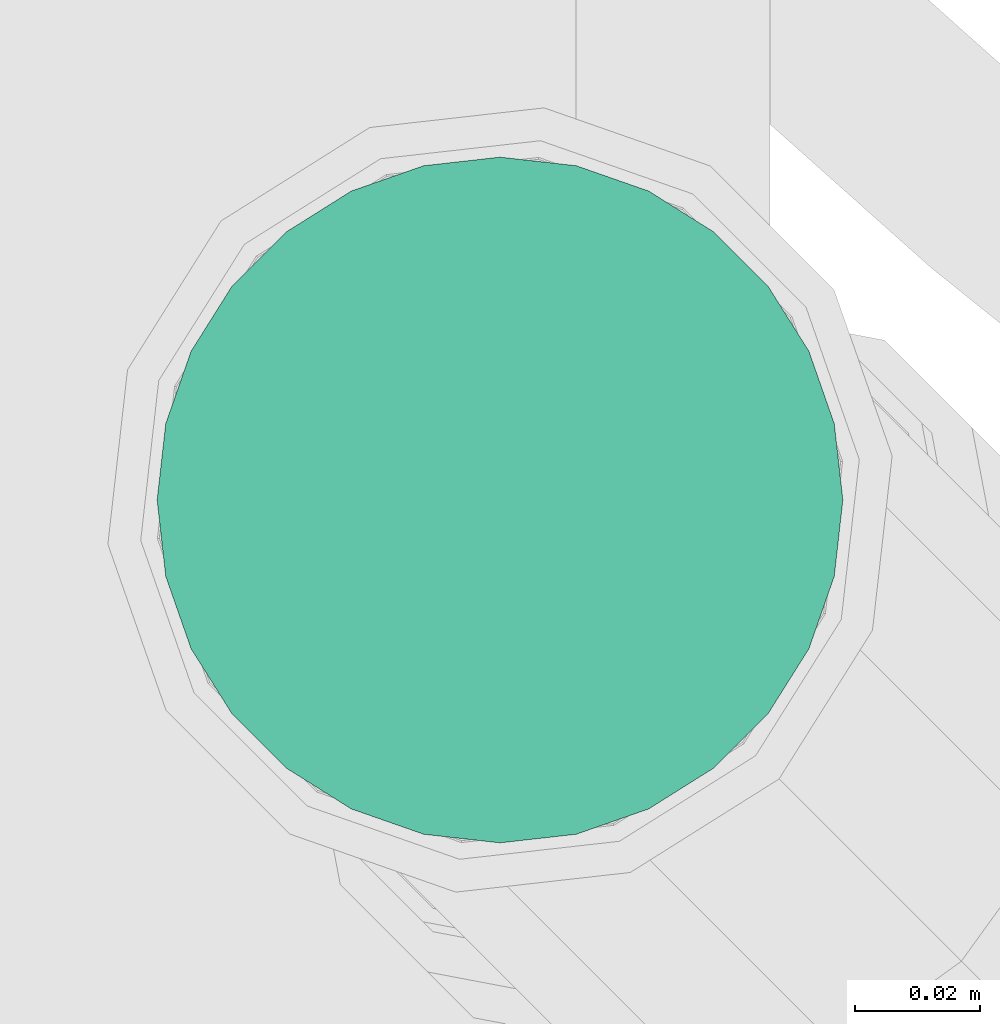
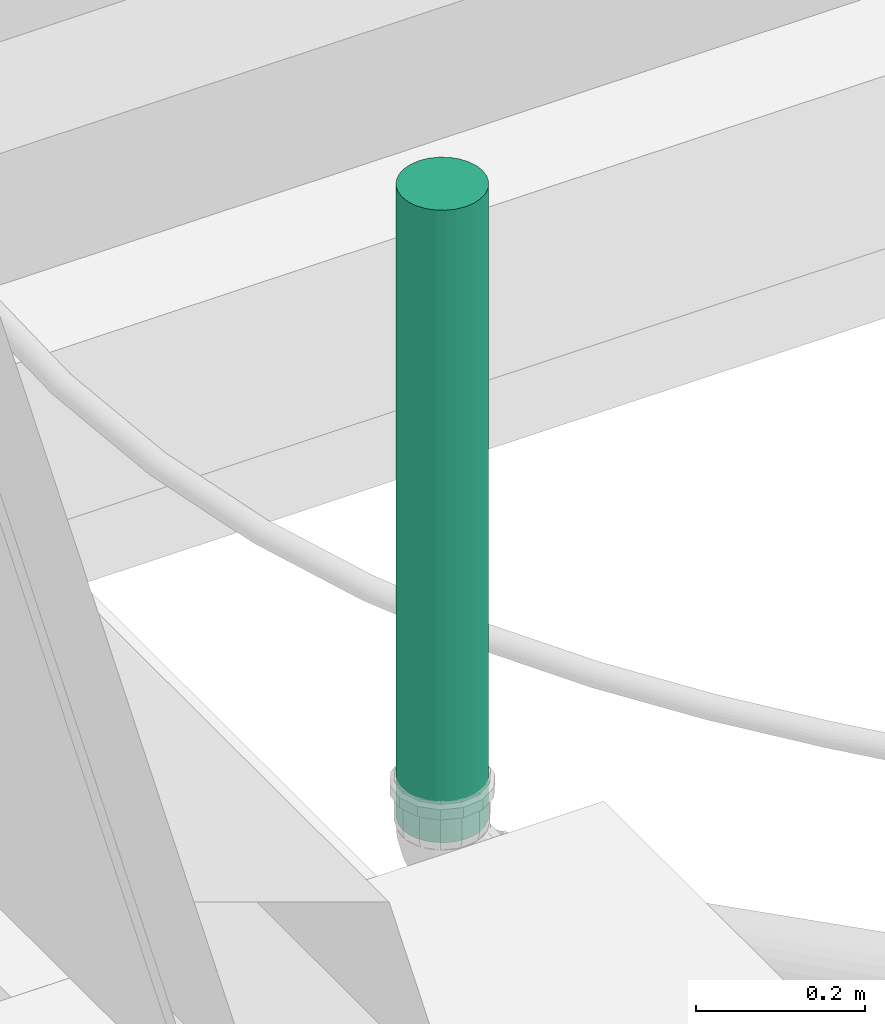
# One storey, part 13 of 18: 1 pipe segment.
"""IFC4 building model written with IfcOpenShell, lengths in centimetres."""

from ifc_helpers import new_model, entity, si_unit, converted_unit, derived_unit, direction, frame, origin, place, context, subcontext, project, spatial, arc, indexed_curve, outline, extrude, type_object, element, save


model = new_model("IFC4")

# Units and contexts
model_context = context("Model", 3, precision=0.001, world=origin(), true_north=direction((6.123233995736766e-17, 1.0)))
body_context = subcontext(model_context, "Body", "Model", "MODEL_VIEW")
ifc_project = project(units=[si_unit("LENGTHUNIT", "METRE", prefix="CENTI"), si_unit("AREAUNIT", "SQUARE_METRE"), converted_unit("PLANEANGLEUNIT", "DEGREE", entity("IfcPlaneAngleMeasure", 0.017453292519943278), si_unit("PLANEANGLEUNIT", "RADIAN"), dimensions=[0, 0, 0, 0, 0, 0, 0]), si_unit("VOLUMEUNIT", "CUBIC_METRE"), derived_unit("THERMALTRANSMITTANCEUNIT", [(si_unit("MASSUNIT", "GRAM", prefix="KILO"), 1), (si_unit("THERMODYNAMICTEMPERATUREUNIT", "KELVIN"), -1), (si_unit("TIMEUNIT", "SECOND"), -3)])], contexts=[model_context])

# Site, building, storey
site_placement = place(None, frame((-0.003347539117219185, 0.0, 0.0)))
site = spatial("IfcSite", under=ifc_project, at=site_placement, Name="Default", CompositionType="ELEMENT")
building_placement = place(site_placement, origin())
building = spatial("IfcBuilding", under=site, at=building_placement, CompositionType="ELEMENT")
storey_placement = place(building_placement, frame((0.0, 0.0, -30.0)))
storey = spatial("IfcBuildingStorey", under=building, at=storey_placement, Name="Fondation B.O.", CompositionType="ELEMENT", Elevation=-30.0)

# Pipe segment
pipe_segment_type = type_object("IfcPipeSegmentType", Name="Canalisation:Valsir PP3", PredefinedType="NOTDEFINED")
pipe_segment_placement = place(storey_placement, origin())
element("IfcPipeSegment", 1, at=pipe_segment_placement, inside=storey, type_object=pipe_segment_type, Name="Canalisation:Valsir PP3", ObjectType="Canalisation:Valsir PP3", PredefinedType="NOTDEFINED", context=body_context, shape_type="SweptSolid", body=[
    extrude(outline(indexed_curve([(5.500000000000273, -1.2044861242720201e-22), (3.8890872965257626, 3.88908729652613), (-3.2937318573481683e-13, 5.500000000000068), (-3.8890872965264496, 3.8890872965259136), (-5.500000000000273, 1.2044861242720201e-22), (-3.8890872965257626, -3.88908729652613), (3.2937318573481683e-13, -5.500000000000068), (3.8890872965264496, -3.8890872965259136)], segments=[arc(1, 2, 3), arc(3, 4, 5), arc(5, 6, 7), arc(7, 8, 1)], self_intersect=False)), frame((-6164.183246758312, -1807.1558647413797, -21.72897597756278)), (0.0, 0.0, 1.0), 91.42417597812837),
])

save(model, "model.ifc")
